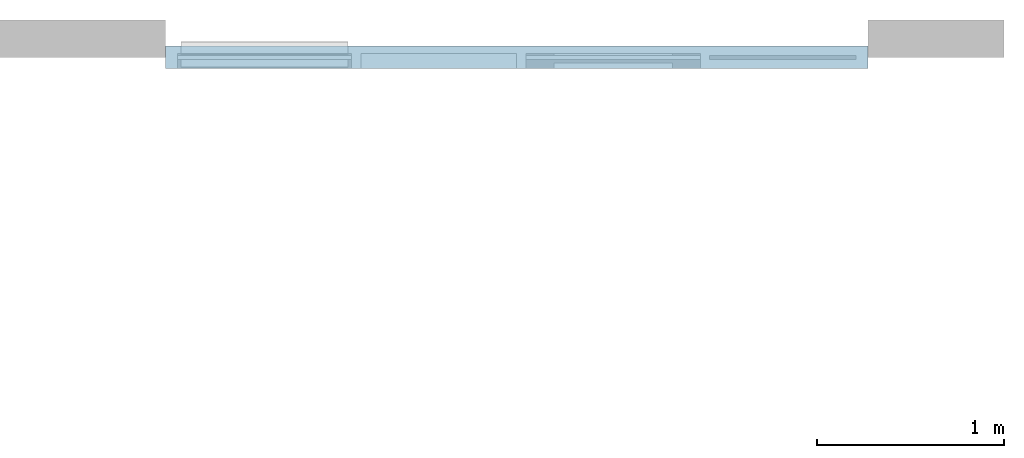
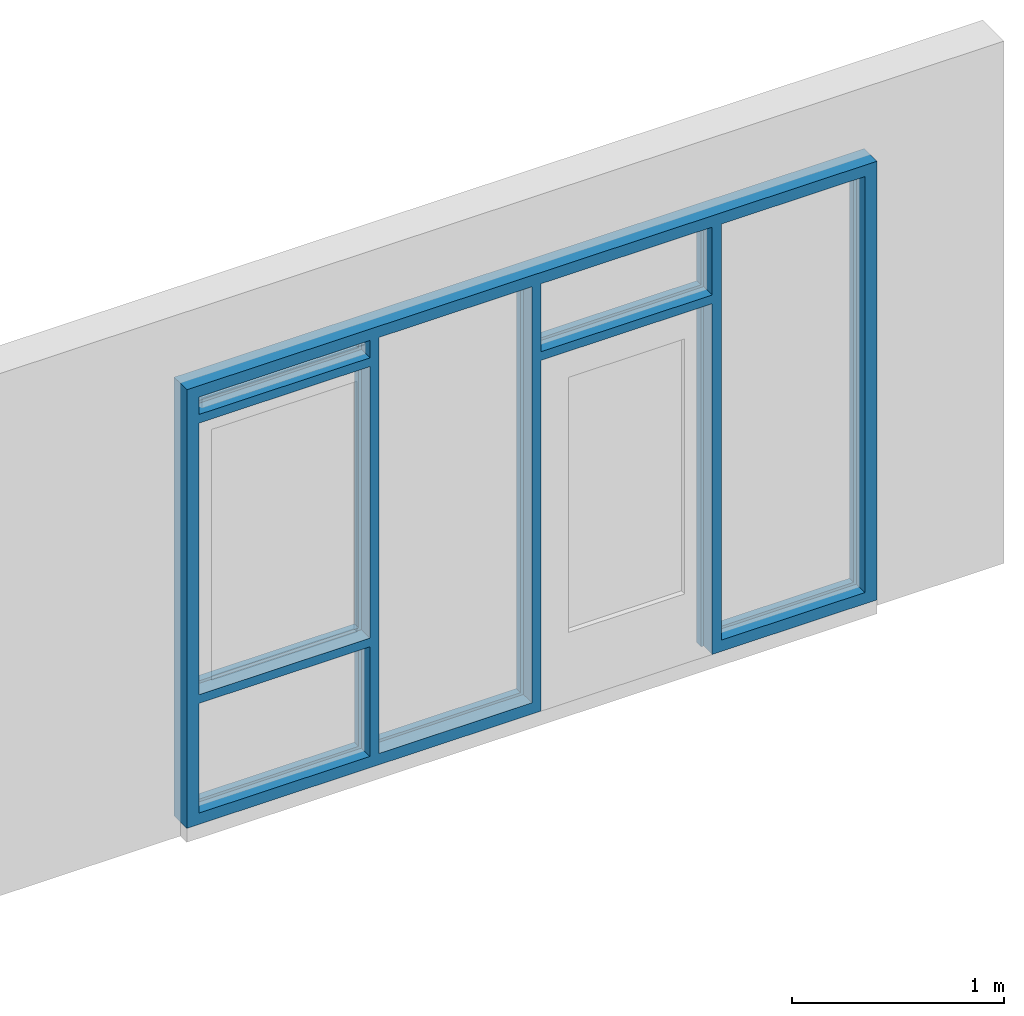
# One storey, part 2 of 4: 1 member, 1 element without a shape of its own.
"""IFC4 building model written with IfcOpenShell, lengths in millimetres."""

from ifc_helpers import new_model, entity, si_unit, converted_unit, derived_unit, direction, frame, origin, place, context, subcontext, project, spatial, polygons, source, transform, mapped, material, type_object, type_shapes, element, aggregate, save


model = new_model("IFC4")

# Units and contexts
model_context = context("Model", 3, precision=0.01, world=origin(), true_north=direction((6.123031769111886e-17, 1.0)))
plan_context = context("Plan", 3, precision=0.01, world=origin(), true_north=direction((6.123031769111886e-17, 1.0)))
body_context = subcontext(model_context, "Body", "Model", "MODEL_VIEW")
ifc_project = project(units=[si_unit("LENGTHUNIT", "METRE", prefix="MILLI"), converted_unit("PLANEANGLEUNIT", "DEGREE", entity("IfcPlaneAngleMeasure", 0.017453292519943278), si_unit("PLANEANGLEUNIT", "RADIAN"), dimensions=[0, 0, 0, 0, 0, 0, 0]), si_unit("AREAUNIT", "SQUARE_METRE"), si_unit("VOLUMEUNIT", "CUBIC_METRE"), si_unit("POWERUNIT", "WATT"), derived_unit("USERDEFINED", [(si_unit("MASSUNIT", "GRAM", prefix="KILO"), 1), (si_unit("TIMEUNIT", "SECOND"), -3)])], contexts=[model_context, plan_context])

# Site, building, storey
site_placement = place(None, origin())
site = spatial("IfcSite", under=ifc_project, at=site_placement, Name="[ComplexCode]", CompositionType="ELEMENT")
building_placement = place(site_placement, origin())
building = spatial("IfcBuilding", under=site, at=building_placement, Name="[BouwwerkCode]", CompositionType="ELEMENT")
storey_placement = place(building_placement, origin())
storey = spatial("IfcBuildingStorey", under=building, at=storey_placement, Name="00", CompositionType="ELEMENT", Elevation=0.0)

# Assembly, member
element_assembly_type = type_object("IfcElementAssemblyType", Name="Assemblies : Generic Models Assembly : kozijncombinatie_buiten", PredefinedType="NOTDEFINED")
assembly_placement = place(storey_placement, origin())
assembly = element("IfcElementAssembly", 1, at=assembly_placement, inside=storey, type_object=element_assembly_type, Name="Assemblies : Generic Models Assembly : kozijncombinatie_buiten", ObjectType="kozijncombinatie", AssemblyPlace="NOTDEFINED", PredefinedType="NOTDEFINED")
ifc_material = material(Name="hout", Category="Hout")
member_type = type_object("IfcMemberType", Name="Generic Models : RBS_31_GM_pui_buiten_1 : pui-bxhxd=3750x2600x120", PredefinedType="USERDEFINED", material=ifc_material)
shared_shape = source(origin(), body_context, "Body", "Tessellation", [
    polygons([(1935.0, 160.00000000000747, 2385.0000000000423), (1935.0, 160.00000000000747, 2435.0000000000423), (1935.0, 80.0000000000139, 2435.0000000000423), (1935.0, 80.00000000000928, 2385.0000000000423), (1005.0000000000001, 160.00000000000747, 2435.0000000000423), (1005.0000000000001, 160.00000000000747, 2385.0000000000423), (1005.0000000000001, 80.00000000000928, 2385.0000000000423), (1005.0000000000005, 80.0000000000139, 2435.000000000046), (1020.0000000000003, 39.999999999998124, 2450.0000000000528), (1020.0000000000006, 39.999999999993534, 2370.000000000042), (1920.0, 39.999999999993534, 2370.000000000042), (1919.9999999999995, 39.999999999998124, 2450.0000000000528), (1919.9999999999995, 80.00000000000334, 2385.0000000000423), (1020.0000000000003, 80.0000000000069, 2385.0000000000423), (1020.0000000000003, 80.00000000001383, 2435.0000000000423), (1919.9999999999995, 80.00000000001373, 2435.0000000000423), (1020.0000000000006, 79.99999999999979, 2370.000000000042), (1920.0, 79.99999999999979, 2370.000000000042), (1020.0000000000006, 80.00000000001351, 2450.000000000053), (1920.0, 80.00000000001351, 2450.000000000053)], [[[1, 2, 3, 4]], [[5, 6, 7, 8]], [[9, 10, 11, 12]], [[6, 1, 4, 13, 14, 7]], [[2, 1, 6, 5]], [[2, 5, 8, 15, 16, 3]], [[10, 17, 18, 11]], [[17, 14, 13, 18]], [[19, 9, 12, 20]], [[15, 19, 20, 16]], [[14, 15, 8, 7]], [[15, 14, 17, 10, 9, 19]], [[16, 13, 4, 3]], [[13, 16, 20, 12, 11, 18]]], closed=True),
    polygons([(74.99999999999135, 160.0000000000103, 80.00000000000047), (74.99999999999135, 80.00000000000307, 80.00000000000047), (74.99999999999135, 80.00000000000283, 145.00000000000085), (74.99999999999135, 160.0000000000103, 145.00000000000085), (1999.9999999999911, 160.0000000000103, 145.00000000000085), (1999.9999999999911, 80.00000000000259, 145.0000000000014), (1999.9999999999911, 80.00000000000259, 160.0000000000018), (1999.9999999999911, 39.99999999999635, 160.0000000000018), (1999.9999999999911, 39.99999999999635, 80.00000000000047), (1999.9999999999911, 160.0000000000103, 80.00000000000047), (59.99999999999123, 40.000000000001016, 80.00000000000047), (59.99999999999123, 39.99999999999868, 160.0000000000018), (59.99999999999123, 80.00000000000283, 80.00000000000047), (59.99999999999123, 80.00000000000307, 160.0000000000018)], [[[1, 2, 3, 4]], [[5, 6, 7, 8, 9, 10]], [[11, 9, 8, 12]], [[11, 13, 2, 1, 10, 9]], [[4, 5, 10, 1]], [[4, 3, 6, 5]], [[6, 3, 2, 13, 14, 7]], [[14, 12, 8, 7]], [[12, 14, 13, 11]]], closed=True),
    polygons([(-855.0000000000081, 160.0000000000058, 80.00000000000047), (-855.0000000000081, 160.0000000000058, 145.00000000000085), (-855.0000000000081, 79.99999999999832, 145.00000000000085), (-855.0000000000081, 79.99999999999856, 80.00000000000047), (-1750.0000000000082, 160.0000000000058, 145.00000000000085), (-1750.0000000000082, 160.0000000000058, 80.00000000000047), (-1750.0000000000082, 39.99999999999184, 80.00000000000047), (-1750.0000000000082, 39.99999999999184, 160.0000000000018), (-1750.0000000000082, 79.9999999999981, 160.0000000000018), (-1750.0000000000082, 79.9999999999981, 145.0000000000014), (-840.0000000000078, 39.999999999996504, 80.00000000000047), (-840.0000000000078, 39.99999999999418, 160.0000000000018), (-840.0000000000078, 79.99999999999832, 80.00000000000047), (-840.0000000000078, 79.99999999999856, 160.0000000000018)], [[[1, 2, 3, 4]], [[5, 6, 7, 8, 9, 10]], [[11, 12, 8, 7]], [[11, 7, 6, 1, 4, 13]], [[2, 1, 6, 5]], [[2, 5, 10, 3]], [[10, 9, 14, 13, 4, 3]], [[14, 9, 8, 12]], [[12, 11, 13, 14]]], closed=True),
    polygons([(1935.0, 160.00000000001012, 775.0000000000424), (1935.0, 160.00000000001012, 825.0000000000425), (1935.0, 80.00000000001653, 825.0000000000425), (1935.0, 80.00000000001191, 775.0000000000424), (1005.0000000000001, 160.00000000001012, 825.0000000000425), (1005.0000000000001, 160.00000000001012, 775.0000000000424), (1005.0000000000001, 80.00000000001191, 775.0000000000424), (1005.0000000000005, 80.00000000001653, 825.0000000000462), (1020.0000000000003, 40.00000000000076, 840.0000000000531), (1020.0000000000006, 39.99999999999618, 760.0000000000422), (1920.0, 39.99999999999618, 760.0000000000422), (1919.9999999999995, 40.00000000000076, 840.0000000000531), (1919.9999999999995, 80.00000000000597, 775.0000000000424), (1020.0000000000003, 80.00000000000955, 775.0000000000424), (1020.0000000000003, 80.00000000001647, 825.0000000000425), (1919.9999999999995, 80.00000000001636, 825.0000000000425), (1020.0000000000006, 80.00000000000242, 760.0000000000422), (1920.0, 80.00000000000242, 760.0000000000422), (1020.0000000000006, 80.00000000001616, 840.0000000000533), (1920.0, 80.00000000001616, 840.0000000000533)], [[[1, 2, 3, 4]], [[5, 6, 7, 8]], [[9, 10, 11, 12]], [[6, 1, 4, 13, 14, 7]], [[2, 1, 6, 5]], [[2, 5, 8, 15, 16, 3]], [[10, 17, 18, 11]], [[17, 14, 13, 18]], [[19, 9, 12, 20]], [[15, 19, 20, 16]], [[14, 15, 8, 7]], [[15, 14, 17, 10, 9, 19]], [[16, 13, 4, 3]], [[13, 16, 20, 12, 11, 18]]], closed=True),
    polygons([(75.00000000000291, 160.00000000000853, 2095.0000000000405), (75.00000000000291, 160.00000000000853, 2145.0000000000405), (75.00000000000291, 80.00000000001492, 2145.0000000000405), (75.00000000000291, 80.00000000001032, 2095.0000000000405), (-854.9999999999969, 160.00000000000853, 2145.0000000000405), (-854.9999999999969, 160.00000000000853, 2095.0000000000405), (-854.9999999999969, 80.00000000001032, 2095.0000000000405), (-854.9999999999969, 80.00000000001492, 2145.000000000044), (-839.9999999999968, 39.99999999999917, 2160.0000000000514), (-839.9999999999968, 39.999999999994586, 2080.00000000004), (60.000000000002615, 39.999999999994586, 2080.00000000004), (60.0000000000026, 39.99999999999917, 2160.0000000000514), (60.0000000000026, 80.00000000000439, 2095.0000000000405), (-839.9999999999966, 80.00000000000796, 2095.0000000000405), (-839.9999999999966, 80.00000000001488, 2145.0000000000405), (60.0000000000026, 80.00000000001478, 2145.0000000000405), (-839.9999999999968, 80.00000000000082, 2080.00000000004), (60.000000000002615, 80.00000000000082, 2080.00000000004), (-839.9999999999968, 80.00000000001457, 2160.0000000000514), (60.0000000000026, 80.00000000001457, 2160.0000000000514)], [[[1, 2, 3, 4]], [[5, 6, 7, 8]], [[9, 10, 11, 12]], [[6, 1, 4, 13, 14, 7]], [[2, 1, 6, 5]], [[2, 5, 8, 15, 16, 3]], [[10, 17, 18, 11]], [[17, 14, 13, 18]], [[19, 9, 12, 20]], [[15, 19, 20, 16]], [[14, 15, 8, 7]], [[15, 14, 17, 10, 9, 19]], [[16, 13, 4, 3]], [[13, 16, 20, 12, 11, 18]]], closed=True),
    polygons([(955.0000000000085, 159.99999999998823, 145.00000000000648), (1005.0000000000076, 159.99999999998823, 145.00000000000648), (1005.0000000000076, 79.99999999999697, 145.00000000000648), (955.0000000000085, 79.99999999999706, 145.00000000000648), (955.0000000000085, 159.99999999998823, 2535.0000000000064), (1005.0000000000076, 159.99999999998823, 2535.0000000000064), (1005.0000000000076, 79.99999999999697, 2535.0000000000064), (1005.0000000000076, 79.99999999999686, 2520.0000000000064), (1005.0000000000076, 79.99999999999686, 160.00000000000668), (955.0000000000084, 79.99999999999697, 160.00000000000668), (955.0000000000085, 79.99999999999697, 2520.0000000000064), (955.0000000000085, 79.99999999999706, 2535.0000000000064), (1020.0000000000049, 39.999999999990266, 2520.0000000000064), (940.0000000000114, 39.99999999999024, 2520.0000000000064), (940.0000000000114, 39.99999999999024, 160.00000000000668), (1020.0000000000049, 39.999999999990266, 160.00000000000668), (940.0000000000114, 79.99999999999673, 2520.0000000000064), (940.0000000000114, 79.99999999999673, 160.00000000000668), (1020.0000000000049, 79.9999999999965, 160.00000000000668), (1020.0000000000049, 79.9999999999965, 2520.0000000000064)], [[[1, 2, 3, 4]], [[5, 6, 2, 1]], [[2, 6, 7, 8, 9, 3]], [[9, 10, 4, 3]], [[5, 1, 4, 10, 11, 12]], [[13, 14, 15, 16]], [[14, 17, 18, 15]], [[10, 9, 19, 16, 15, 18]], [[20, 13, 16, 19]], [[8, 20, 19, 9]], [[17, 11, 10, 18]], [[6, 5, 12, 7]], [[11, 8, 7, 12]], [[8, 11, 17, 14, 13, 20]]], closed=True),
    polygons([(75.00000000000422, 159.99999999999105, 145.00000000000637), (125.0000000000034, 159.99999999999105, 145.00000000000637), (125.00000000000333, 79.99999999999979, 145.00000000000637), (75.0000000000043, 79.99999999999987, 145.00000000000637), (75.00000000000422, 159.99999999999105, 2535.0000000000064), (125.0000000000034, 159.99999999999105, 2535.0000000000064), (125.00000000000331, 79.99999999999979, 2535.0000000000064), (125.00000000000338, 79.99999999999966, 2520.0000000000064), (125.00000000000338, 79.99999999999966, 160.00000000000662), (75.00000000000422, 79.99999999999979, 160.00000000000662), (75.00000000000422, 79.99999999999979, 2520.0000000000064), (75.00000000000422, 79.99999999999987, 2535.0000000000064), (140.0000000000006, 39.99999999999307, 2520.0000000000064), (60.00000000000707, 39.999999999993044, 2520.0000000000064), (60.00000000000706, 39.999999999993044, 160.00000000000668), (140.0000000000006, 39.99999999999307, 160.00000000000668), (60.00000000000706, 79.99999999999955, 2520.0000000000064), (60.00000000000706, 79.99999999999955, 160.00000000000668), (140.0000000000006, 79.9999999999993, 160.00000000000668), (140.0000000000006, 79.9999999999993, 2520.0000000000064)], [[[1, 2, 3, 4]], [[5, 6, 2, 1]], [[2, 6, 7, 8, 9, 3]], [[9, 10, 4, 3]], [[5, 1, 4, 10, 11, 12]], [[13, 14, 15, 16]], [[14, 17, 18, 15]], [[10, 9, 19, 16, 15, 18]], [[20, 13, 16, 19]], [[8, 20, 19, 9]], [[17, 11, 10, 18]], [[6, 5, 12, 7]], [[11, 8, 7, 12]], [[8, 11, 17, 14, 13, 20]]], closed=True),
    polygons([(-905.0000000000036, 159.99999999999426, 145.0000000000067), (-855.0000000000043, 159.99999999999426, 145.0000000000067), (-855.0000000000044, 80.000000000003, 145.0000000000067), (-905.0000000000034, 80.00000000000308, 145.0000000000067), (-905.0000000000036, 159.99999999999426, 2535.0000000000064), (-855.0000000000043, 159.99999999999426, 2535.0000000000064), (-855.0000000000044, 80.000000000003, 2535.0000000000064), (-855.0000000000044, 80.00000000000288, 2520.0000000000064), (-855.0000000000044, 80.00000000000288, 160.00000000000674), (-905.0000000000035, 80.000000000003, 160.00000000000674), (-905.0000000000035, 80.000000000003, 2520.0000000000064), (-905.0000000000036, 80.00000000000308, 2535.0000000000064), (-840.0000000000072, 39.999999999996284, 2520.0000000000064), (-920.0000000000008, 39.99999999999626, 2520.0000000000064), (-920.0000000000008, 39.99999999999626, 160.00000000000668), (-840.0000000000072, 39.999999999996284, 160.00000000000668), (-920.0000000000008, 80.00000000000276, 2520.0000000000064), (-920.0000000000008, 80.00000000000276, 160.00000000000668), (-840.0000000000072, 80.00000000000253, 160.00000000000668), (-840.0000000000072, 80.00000000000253, 2520.0000000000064)], [[[1, 2, 3, 4]], [[5, 6, 2, 1]], [[2, 6, 7, 8, 9, 3]], [[9, 10, 4, 3]], [[5, 1, 4, 10, 11, 12]], [[13, 14, 15, 16]], [[14, 17, 18, 15]], [[10, 9, 19, 16, 15, 18]], [[20, 13, 16, 19]], [[8, 20, 19, 9]], [[17, 11, 10, 18]], [[6, 5, 12, 7]], [[11, 8, 7, 12]], [[8, 11, 17, 14, 13, 20]]], closed=True),
    polygons([(1999.9999999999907, 39.999999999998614, 2519.999999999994), (1999.9999999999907, 80.00000000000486, 2519.999999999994), (1999.9999999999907, 80.00000000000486, 2534.9999999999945), (1999.9999999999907, 160.00000000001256, 2534.9999999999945), (1999.9999999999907, 160.00000000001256, 2599.9999999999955), (1999.9999999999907, 39.999999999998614, 2599.9999999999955), (-1750.000000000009, 39.999999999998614, 2519.999999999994), (-1750.000000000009, 80.00000000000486, 2519.999999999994), (-1750.000000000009, 80.00000000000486, 2534.9999999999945), (-1750.000000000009, 160.00000000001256, 2534.9999999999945), (-1750.000000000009, 160.00000000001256, 2599.9999999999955), (-1750.000000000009, 39.999999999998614, 2599.9999999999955)], [[[1, 2, 3, 4, 5, 6]], [[2, 1, 7, 8]], [[3, 2, 8, 9]], [[10, 4, 3, 9]], [[5, 4, 10, 11]], [[1, 6, 12, 7]], [[12, 11, 10, 9, 8, 7]], [[6, 5, 11, 12]]], closed=True),
    polygons([(1999.999999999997, 159.99999999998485, 145.0000000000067), (1999.999999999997, 79.99999999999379, 145.0000000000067), (1934.9999999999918, 79.99999999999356, 145.0000000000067), (1934.9999999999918, 159.99999999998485, 145.0000000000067), (1934.9999999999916, 79.99999999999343, 2520.0000000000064), (1934.9999999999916, 79.99999999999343, 160.00000000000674), (1919.9999999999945, 79.99999999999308, 160.00000000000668), (1919.9999999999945, 79.99999999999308, 2520.0000000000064), (1919.9999999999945, 39.99999999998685, 160.00000000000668), (1919.9999999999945, 39.99999999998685, 2520.0000000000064), (1999.999999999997, 39.999999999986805, 160.00000000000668), (1999.999999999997, 39.99999999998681, 2520.0000000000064), (1999.999999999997, 159.99999999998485, 2535.0000000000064), (1999.999999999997, 79.99999999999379, 2535.0000000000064), (1999.9999999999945, 79.99999999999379, 2520.000000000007), (1999.9999999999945, 79.99999999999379, 160.00000000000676), (1934.9999999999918, 159.99999999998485, 2535.0000000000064), (1934.9999999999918, 79.99999999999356, 2535.0000000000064)], [[[1, 2, 3, 4]], [[5, 6, 7, 8]], [[8, 7, 9, 10]], [[10, 9, 11, 12]], [[13, 14, 15, 12, 11, 16, 2, 1]], [[13, 1, 4, 17]], [[4, 3, 6, 5, 18, 17]], [[17, 18, 14, 13]], [[15, 14, 18, 5]], [[5, 8, 10, 12, 15]], [[6, 3, 2, 16]], [[16, 11, 9, 7, 6]]], closed=True),
    polygons([(-1750.0000000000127, 159.9999999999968, 145.00000000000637), (-1685.000000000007, 159.9999999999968, 145.00000000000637), (-1685.000000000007, 80.0000000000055, 145.00000000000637), (-1750.0000000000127, 80.00000000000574, 145.00000000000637), (-1685.0000000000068, 80.00000000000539, 2520.0000000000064), (-1670.0000000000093, 80.00000000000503, 2520.0000000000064), (-1670.0000000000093, 80.00000000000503, 160.00000000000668), (-1685.0000000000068, 80.00000000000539, 160.00000000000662), (-1670.0000000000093, 39.99999999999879, 2520.0000000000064), (-1670.0000000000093, 39.99999999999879, 160.00000000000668), (-1750.0000000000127, 39.99999999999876, 2520.0000000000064), (-1750.0000000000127, 39.99999999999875, 160.00000000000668), (-1750.0000000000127, 159.9999999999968, 2535.0000000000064), (-1750.0000000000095, 80.00000000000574, 160.00000000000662), (-1750.0000000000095, 80.00000000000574, 2520.0000000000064), (-1750.0000000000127, 80.00000000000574, 2535.0000000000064), (-1685.000000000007, 159.9999999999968, 2535.0000000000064), (-1685.000000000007, 80.0000000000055, 2535.0000000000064)], [[[1, 2, 3, 4]], [[5, 6, 7, 8]], [[6, 9, 10, 7]], [[9, 11, 12, 10]], [[13, 1, 4, 14, 12, 11, 15, 16]], [[13, 17, 2, 1]], [[2, 17, 18, 5, 8, 3]], [[17, 13, 16, 18]], [[15, 5, 18, 16]], [[5, 15, 11, 9, 6]], [[8, 14, 4, 3]], [[14, 8, 7, 10, 12]]], closed=True),
])
type_shapes(member_type, [shared_shape])
member_placement = place(assembly_placement, frame((13875.0, 7500.0, 0.0), z_axis=(0.0, 0.0, 1.0), x_axis=(-1.0, 0.0, 0.0)))
member = element("IfcMember", 2, at=member_placement, type_object=member_type, material=ifc_material, Name="Generic Models : RBS_31_GM_pui_buiten_1 : pui-bxhxd=3750x2600x120", ObjectType="kozijn", PredefinedType="USERDEFINED", context=body_context, shape_type="MappedRepresentation", body=[
    mapped(shared_shape, transform((0.0, 0.0, 0.0), scale=1.0)),
])
aggregate(assembly, [member])

save(model, "model.ifc")
